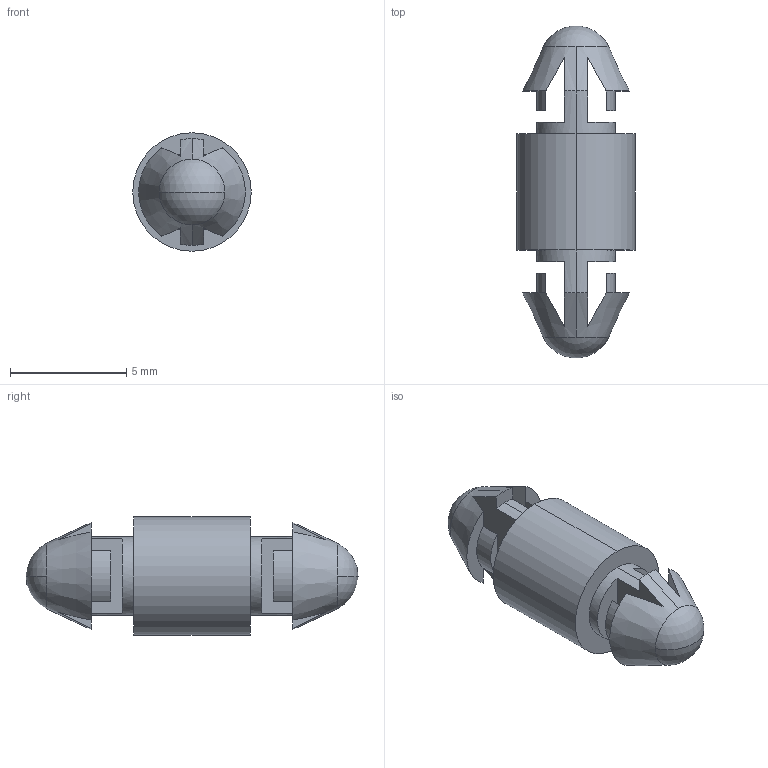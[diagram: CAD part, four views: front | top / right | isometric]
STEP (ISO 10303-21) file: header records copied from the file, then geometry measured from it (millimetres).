
FILE_DESCRIPTION (( 'STEP AP214' ), '1' );
FILE_NAME ('LCI-5.STEP', '2014-12-30T11:13:29', ( 'Tester2' ), ( '' ), 'SwSTEP 2.0', 'SolidWorks 2012', '' );
FILE_SCHEMA (( 'AUTOMOTIVE_DESIGN' ));
Length unit declared in the file: millimetre
Products named in the file (1): LCI-5
Bounding box: 5.1 x 14.3 x 5.1 mm (x, y, z)
Volume: 161.8 mm3; surface area: 282.6 mm2
Topology: 1 solids, 1 shells, 48 faces, 126 edges, 82 vertices
Faces by surface type: plane 30, cylinder 10, cone 4, sphere 4
Entity records: 1536 total; most frequent: CARTESIAN_POINT 305, DIRECTION 260, ORIENTED_EDGE 252, EDGE_CURVE 126, AXIS2_PLACEMENT_3D 101, VERTEX_POINT 82, VECTOR 58, LINE 58
